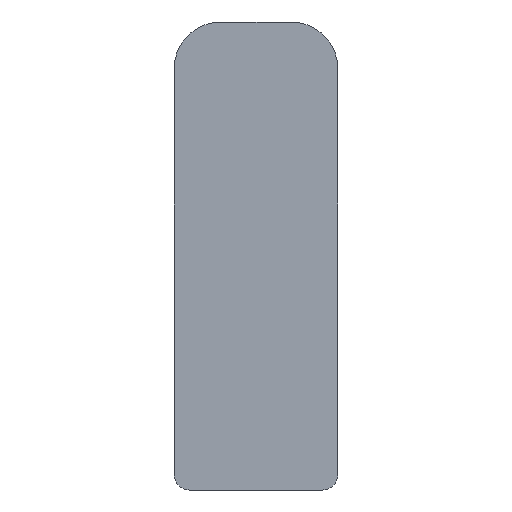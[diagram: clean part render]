
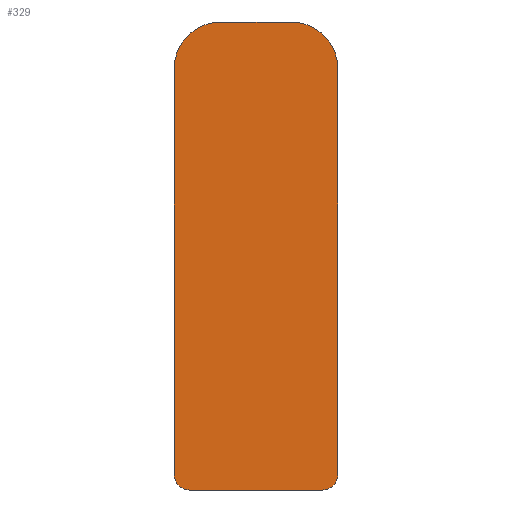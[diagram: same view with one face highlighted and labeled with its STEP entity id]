
A CAD part, left-side view. The second image highlights one B-rep face of the part: STEP entity #329.
In plain terms, the highlighted planar face has unit normal (-1, 0, 0).
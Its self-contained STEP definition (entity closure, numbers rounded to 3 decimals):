
#14 = FACE_OUTER_BOUND ( 'NONE', #94, .T. ) ;
#22 = VECTOR ( 'NONE', #278, 1000. ) ;
#23 = LINE ( 'NONE', #279, #22 ) ;
#27 = VECTOR ( 'NONE', #289, 1000. ) ;
#28 = LINE ( 'NONE', #290, #27 ) ;
#33 = CIRCLE ( 'NONE', #84, 3. ) ;
#38 = CIRCLE ( 'NONE', #164, 3. ) ;
#45 = LINE ( 'NONE', #307, #46 ) ;
#46 = VECTOR ( 'NONE', #306, 1000. ) ;
#47 = CIRCLE ( 'NONE', #160, 1. ) ;
#55 = VECTOR ( 'NONE', #317, 1000. ) ;
#56 = LINE ( 'NONE', #318, #55 ) ;
#62 = CIRCLE ( 'NONE', #162, 1. ) ;
#80 = AXIS2_PLACEMENT_3D ( 'NONE', #243, #242, #240 ) ;
#84 = AXIS2_PLACEMENT_3D ( 'NONE', #301, #300, #299 ) ;
#94 = EDGE_LOOP ( 'NONE', ( #114, #115, #116, #117, #118, #119, #120, #121 ) ) ;
#114 = ORIENTED_EDGE ( 'NONE', *, *, #166, .T. ) ;
#115 = ORIENTED_EDGE ( 'NONE', *, *, #170, .T. ) ;
#116 = ORIENTED_EDGE ( 'NONE', *, *, #146, .T. ) ;
#117 = ORIENTED_EDGE ( 'NONE', *, *, #173, .T. ) ;
#118 = ORIENTED_EDGE ( 'NONE', *, *, #151, .T. ) ;
#119 = ORIENTED_EDGE ( 'NONE', *, *, #155, .T. ) ;
#120 = ORIENTED_EDGE ( 'NONE', *, *, #158, .T. ) ;
#121 = ORIENTED_EDGE ( 'NONE', *, *, #159, .T. ) ;
#146 = EDGE_CURVE ( 'NONE', #305, #295, #38, .T. ) ;
#151 = EDGE_CURVE ( 'NONE', #248, #250, #62, .T. ) ;
#155 = EDGE_CURVE ( 'NONE', #250, #288, #56, .T. ) ;
#158 = EDGE_CURVE ( 'NONE', #288, #275, #47, .T. ) ;
#159 = EDGE_CURVE ( 'NONE', #275, #241, #45, .T. ) ;
#160 = AXIS2_PLACEMENT_3D ( 'NONE', #311, #310, #308 ) ;
#162 = AXIS2_PLACEMENT_3D ( 'NONE', #327, #326, #325 ) ;
#164 = AXIS2_PLACEMENT_3D ( 'NONE', #283, #246, #245 ) ;
#166 = EDGE_CURVE ( 'NONE', #241, #291, #33, .T. ) ;
#170 = EDGE_CURVE ( 'NONE', #291, #305, #28, .T. ) ;
#173 = EDGE_CURVE ( 'NONE', #295, #248, #23, .T. ) ;
#240 = DIRECTION ( 'NONE',  ( 0., 0., 1. ) ) ;
#241 = VERTEX_POINT ( 'NONE', #263 ) ;
#242 = DIRECTION ( 'NONE',  ( -1., 0., 0. ) ) ;
#243 = CARTESIAN_POINT ( 'NONE',  ( -131.25, -2.25, 27. ) ) ;
#245 = DIRECTION ( 'NONE',  ( 0., 0., -1. ) ) ;
#246 = DIRECTION ( 'NONE',  ( -1., 0., 0. ) ) ;
#247 = PLANE ( 'NONE',  #80 ) ;
#248 = VERTEX_POINT ( 'NONE', #262 ) ;
#250 = VERTEX_POINT ( 'NONE', #260 ) ;
#252 = CARTESIAN_POINT ( 'NONE',  ( -131.25, 2.25, 30. ) ) ;
#253 = CARTESIAN_POINT ( 'NONE',  ( -131.25, 5.25, 27. ) ) ;
#254 = CARTESIAN_POINT ( 'NONE',  ( -131.25, -2.25, 30. ) ) ;
#255 = CARTESIAN_POINT ( 'NONE',  ( -131.25, -4.25, 0. ) ) ;
#258 = CARTESIAN_POINT ( 'NONE',  ( -131.25, -5.25, 1. ) ) ;
#260 = CARTESIAN_POINT ( 'NONE',  ( -131.25, 4.25, 0. ) ) ;
#262 = CARTESIAN_POINT ( 'NONE',  ( -131.25, 5.25, 1. ) ) ;
#263 = CARTESIAN_POINT ( 'NONE',  ( -131.25, -5.25, 27. ) ) ;
#275 = VERTEX_POINT ( 'NONE', #258 ) ;
#278 = DIRECTION ( 'NONE',  ( 0., 0., -1. ) ) ;
#279 = CARTESIAN_POINT ( 'NONE',  ( -131.25, 5.25, 1. ) ) ;
#283 = CARTESIAN_POINT ( 'NONE',  ( -131.25, 2.25, 27. ) ) ;
#288 = VERTEX_POINT ( 'NONE', #255 ) ;
#289 = DIRECTION ( 'NONE',  ( 0., 1., 0. ) ) ;
#290 = CARTESIAN_POINT ( 'NONE',  ( -131.25, -2.25, 30. ) ) ;
#291 = VERTEX_POINT ( 'NONE', #254 ) ;
#295 = VERTEX_POINT ( 'NONE', #253 ) ;
#299 = DIRECTION ( 'NONE',  ( 0., 0., 1. ) ) ;
#300 = DIRECTION ( 'NONE',  ( -1., 0., 0. ) ) ;
#301 = CARTESIAN_POINT ( 'NONE',  ( -131.25, -2.25, 27. ) ) ;
#305 = VERTEX_POINT ( 'NONE', #252 ) ;
#306 = DIRECTION ( 'NONE',  ( 0., 0., 1. ) ) ;
#307 = CARTESIAN_POINT ( 'NONE',  ( -131.25, -5.25, 1. ) ) ;
#308 = DIRECTION ( 'NONE',  ( 0., 0., -1. ) ) ;
#310 = DIRECTION ( 'NONE',  ( -1., 0., 0. ) ) ;
#311 = CARTESIAN_POINT ( 'NONE',  ( -131.25, -4.25, 1. ) ) ;
#317 = DIRECTION ( 'NONE',  ( 0., -1., 0. ) ) ;
#318 = CARTESIAN_POINT ( 'NONE',  ( -131.25, -4.25, 0. ) ) ;
#325 = DIRECTION ( 'NONE',  ( 0., 0., -1. ) ) ;
#326 = DIRECTION ( 'NONE',  ( -1., 0., 0. ) ) ;
#327 = CARTESIAN_POINT ( 'NONE',  ( -131.25, 4.25, 1. ) ) ;
#329 = ADVANCED_FACE ( 'NONE', ( #14 ), #247, .T. ) ;
